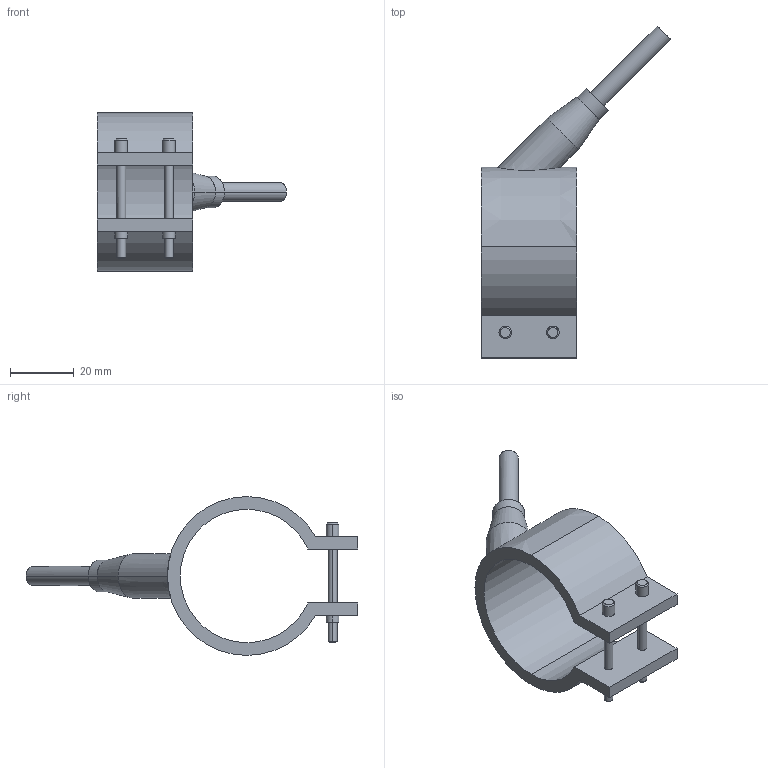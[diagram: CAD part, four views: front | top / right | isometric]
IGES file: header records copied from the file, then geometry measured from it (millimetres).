
Start section: START RECORD GO HERE.
Global section: file name: 29042030.igs; native system: DASSAULT SYSTEMES CATIA V5 R20 - www.3ds.com; preprocessor: CATIA Version 5 Release 20 ; author: Utente; organization: NB04-ASUS; date: 20210327.103917; units: millimetre
Bounding box: 59.55 x 104.55 x 50 mm (x, y, z)
Surface area: 12767.5 mm2 (no closed solid volume)
Topology: 0 solids, 0 shells, 54 faces, 246 edges, 246 vertices
Faces by surface type: revolution 38, plane 16
